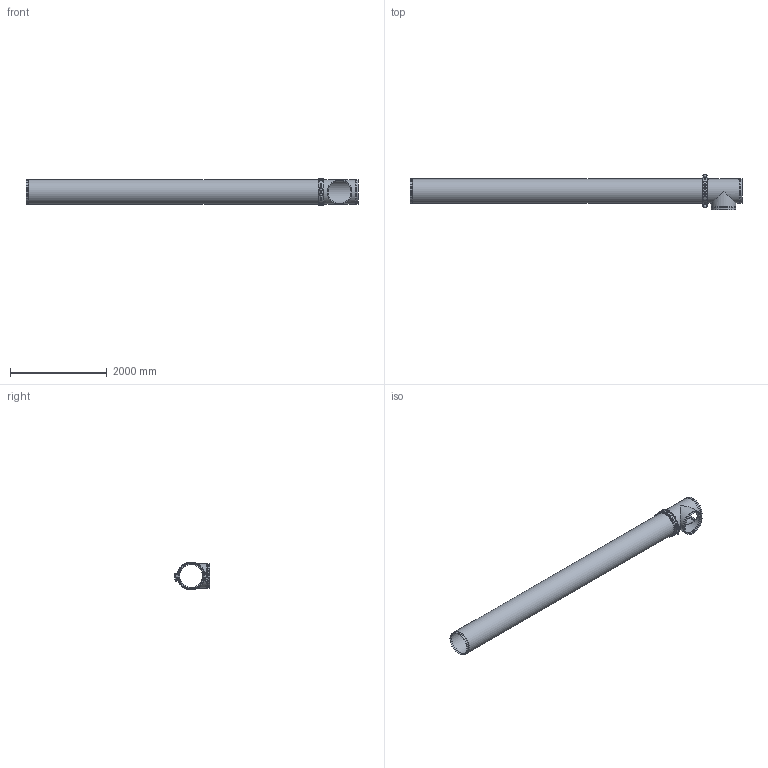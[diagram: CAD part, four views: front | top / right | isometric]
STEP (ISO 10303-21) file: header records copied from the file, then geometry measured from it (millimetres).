
FILE_DESCRIPTION(/* description */ ('VIC AGS LONG RUN FITTING No WR22 (AGS)','CAx-IF Rec.Pracs.---Representation and Presentation of Product Manufacturing Information (PMI)---4.0---2014-10-13'),/* implementation_level */ '2;1');
FILE_NAME(/* name */ 'C:\Users\kkamble\AppData\Roaming\Autodesk\ApplicationPlugins\Back Up\Victaulic_AGS_Long Run Fittings_No WR22 (AGS)\Victaulic_AGS_Long Run Fittings_No WR22 (AGS)_20 (500).stp',/* time_stamp */ '2020-10-07T02:49:40+05:00',/* author */ ('kkamble'),/* organization */ ('Victaulic'),/* preprocessor_version */ 'ST-DEVELOPER v17.2',/* originating_system */ 'Autodesk Inventor 2019',/* authorisation */ '');
FILE_SCHEMA (('AP242_MANAGED_MODEL_BASED_3D_ENGINEERING_MIM_LF { 1 0 10303 442 1 1 4 }'));
Length unit declared in the file: inch
Products named in the file (4): WR22-20.0; WR22-20.0_1; W77-20.0; W20-20.0
Assembly tree (3 placements, depth 2):
  WR22-20.0
    WR22-20.0_1
    W77-20.0
    W20-20.0
Bounding box: 6865.87 x 725.55 x 574.67 mm (x, y, z)
Volume: 110090879.4 mm3; surface area: 22442954.2 mm2
Topology: 3 solids, 5 shells, 308 faces, 917 edges, 633 vertices
Faces by surface type: cylinder 129, plane 108, torus 56, cone 13, sphere 2
Full cylindrical faces by diameter (mm): 28.575 x4, 47.625 x2, 476.25 x3, 482.6 x1, 488.95 x6, 495.3 x5, 508 x10
Entity records: 13326 total; most frequent: CARTESIAN_POINT 4465, ORIENTED_EDGE 1834, DIRECTION 1764, EDGE_CURVE 917, AXIS2_PLACEMENT_3D 724, VERTEX_POINT 633, CIRCLE 399, EDGE_LOOP 334
